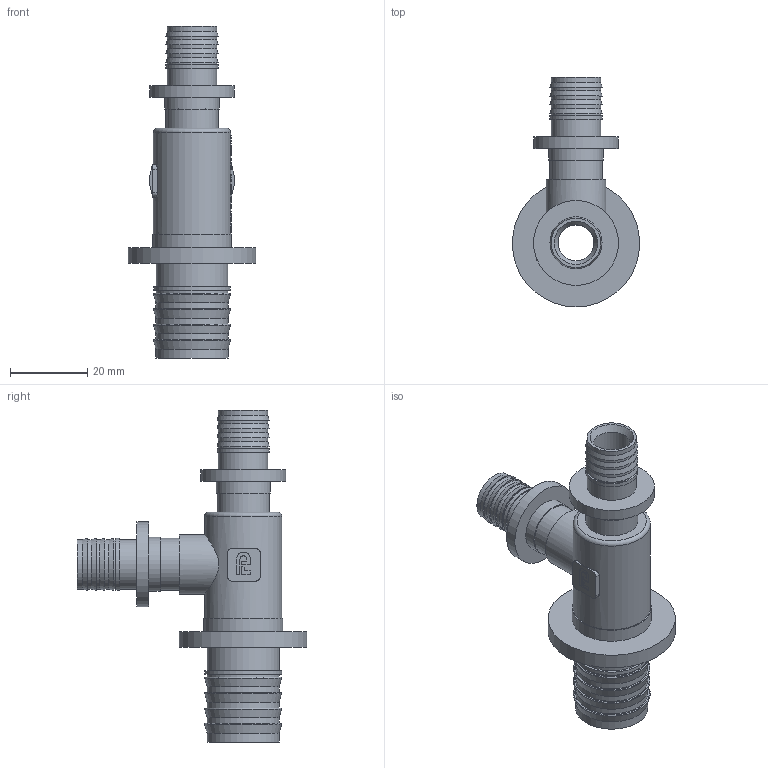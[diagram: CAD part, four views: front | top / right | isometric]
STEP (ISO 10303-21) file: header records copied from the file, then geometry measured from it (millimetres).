
FILE_DESCRIPTION(/* description */ (''),/* implementation_level */ '2;1');
FILE_NAME(/* name */ 'C:\Users\Doom\Desktop\Фадотех\Натяжка\SFT21-NEW 25x16x16 18.08.2020\SFT21-NEW 25x16x16 18.08.2020.stp',/* time_stamp */ '2022-07-26T00:11:30+03:00',/* author */ ('Doom'),/* organization */ (''),/* preprocessor_version */ 'ST-DEVELOPER v18',/* originating_system */ 'Autodesk Inventor 2020',/* authorisation */ '');
FILE_SCHEMA (('AUTOMOTIVE_DESIGN { 1 0 10303 214 3 1 1 }'));
Length unit declared in the file: millimetre
Products named in the file (1): SFT21-NEW 25x16x16 18.08.2020
Bounding box: 33 x 59.5 x 86 mm (x, y, z)
Volume: 16220.6 mm3; surface area: 13817.6 mm2
Topology: 1 solids, 1 shells, 251 faces, 688 edges, 482 vertices
Faces by surface type: bspline 96, plane 90, cylinder 44, cone 16, torus 5
Full cylindrical faces by diameter (mm): 9.3 x2, 12.8 x12, 13.5 x4, 14 x2, 14.7 x1, 15.5 x1, 18.626 x2, 18.667 x3, 18.7 x1, 19.9 x1, 20 x1, 20.5 x1, 22 x2, 33 x1
Entity records: 10308 total; most frequent: CARTESIAN_POINT 4250, ORIENTED_EDGE 1376, DIRECTION 1025, EDGE_CURVE 688, VERTEX_POINT 482, AXIS2_PLACEMENT_3D 377, EDGE_LOOP 298, LINE 271
